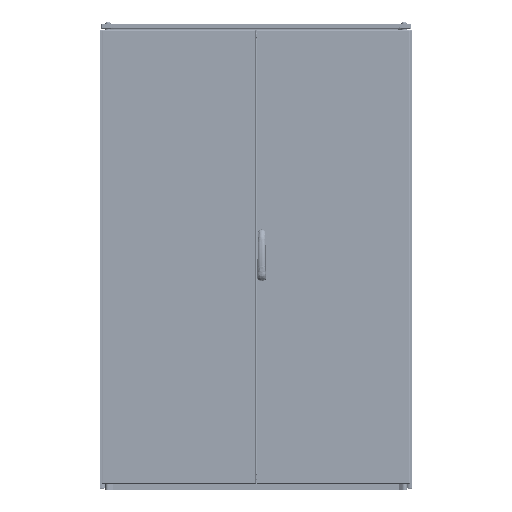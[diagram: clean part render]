
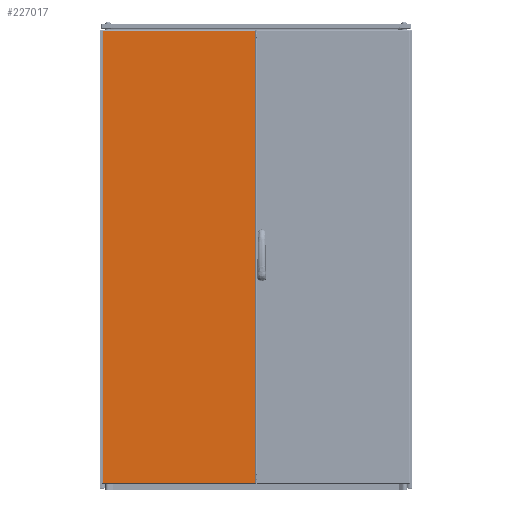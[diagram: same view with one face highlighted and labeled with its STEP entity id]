
A CAD part, top view. The second image highlights one B-rep face of the part: STEP entity #227017.
In plain terms, the highlighted planar face has unit normal (0, 0, 1).
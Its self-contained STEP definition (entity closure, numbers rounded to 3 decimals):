
#28065 = DIRECTION ( 'NONE',  ( 0., 0., -1. ) ) ;
#30942 = VECTOR ( 'NONE', #103145, 1000. ) ;
#49919 = EDGE_LOOP ( 'NONE', ( #161276, #315245, #223015, #141835 ) ) ;
#50982 = VERTEX_POINT ( 'NONE', #178850 ) ;
#63522 = DIRECTION ( 'NONE',  ( 0., -1., 0. ) ) ;
#63745 = CARTESIAN_POINT ( 'NONE',  ( 0., 3., 19. ) ) ;
#77686 = VECTOR ( 'NONE', #378304, 1000. ) ;
#85899 = DIRECTION ( 'NONE',  ( 0., 1., 0. ) ) ;
#103145 = DIRECTION ( 'NONE',  ( -1., 0., 0. ) ) ;
#118146 = LINE ( 'NONE', #388517, #191137 ) ;
#120754 = CARTESIAN_POINT ( 'NONE',  ( 592., 1757., 19. ) ) ;
#120845 = DIRECTION ( 'NONE',  ( -1., 0., 0. ) ) ;
#126031 = LINE ( 'NONE', #339873, #240839 ) ;
#127469 = LINE ( 'NONE', #312966, #30942 ) ;
#130472 = CARTESIAN_POINT ( 'NONE',  ( 2.001, 1757., 19. ) ) ;
#141835 = ORIENTED_EDGE ( 'NONE', *, *, #232502, .T. ) ;
#147422 = VERTEX_POINT ( 'NONE', #165602 ) ;
#160475 = LINE ( 'NONE', #63745, #77686 ) ;
#161276 = ORIENTED_EDGE ( 'NONE', *, *, #184670, .T. ) ;
#165602 = CARTESIAN_POINT ( 'NONE',  ( 2.001, 3., 19. ) ) ;
#178850 = CARTESIAN_POINT ( 'NONE',  ( 592., 3., 19. ) ) ;
#184670 = EDGE_CURVE ( 'NONE', #246933, #371341, #127469, .T. ) ;
#191137 = VECTOR ( 'NONE', #85899, 1000. ) ;
#223015 = ORIENTED_EDGE ( 'NONE', *, *, #276724, .T. ) ;
#227017 = ADVANCED_FACE ( 'NONE', ( #241888 ), #304380, .F. ) ;
#232502 = EDGE_CURVE ( 'NONE', #50982, #246933, #118146, .T. ) ;
#240839 = VECTOR ( 'NONE', #63522, 1000. ) ;
#241888 = FACE_OUTER_BOUND ( 'NONE', #49919, .T. ) ;
#246933 = VERTEX_POINT ( 'NONE', #120754 ) ;
#254798 = AXIS2_PLACEMENT_3D ( 'NONE', #364924, #28065, #120845 ) ;
#276724 = EDGE_CURVE ( 'NONE', #147422, #50982, #160475, .T. ) ;
#304380 = PLANE ( 'NONE',  #254798 ) ;
#312966 = CARTESIAN_POINT ( 'NONE',  ( 0., 1757., 19. ) ) ;
#315245 = ORIENTED_EDGE ( 'NONE', *, *, #379333, .T. ) ;
#339873 = CARTESIAN_POINT ( 'NONE',  ( 2.001, 3., 19. ) ) ;
#364924 = CARTESIAN_POINT ( 'NONE',  ( 0., 1760., 19. ) ) ;
#371341 = VERTEX_POINT ( 'NONE', #130472 ) ;
#378304 = DIRECTION ( 'NONE',  ( 1., 0., 0. ) ) ;
#379333 = EDGE_CURVE ( 'NONE', #371341, #147422, #126031, .T. ) ;
#388517 = CARTESIAN_POINT ( 'NONE',  ( 592., 1760., 19. ) ) ;
